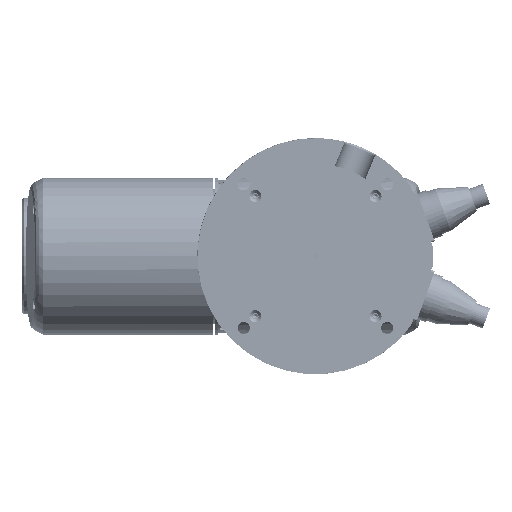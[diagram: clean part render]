
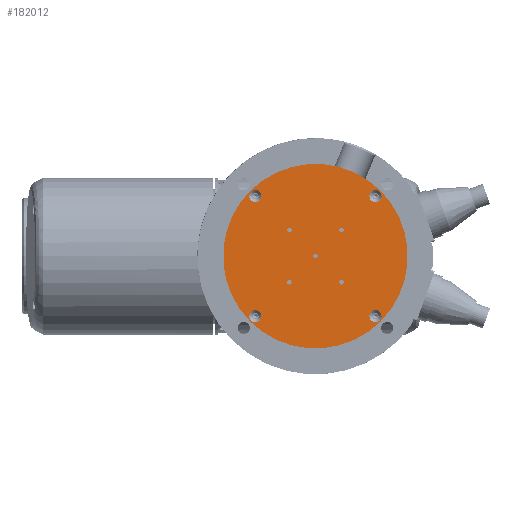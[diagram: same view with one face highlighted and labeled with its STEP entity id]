
A CAD part, front view. The second image highlights one B-rep face of the part: STEP entity #182012.
In plain terms, the highlighted planar face has unit normal (0, -1, 0) as drawn and (0, 0, 1) by its records, which use the part's own axes.
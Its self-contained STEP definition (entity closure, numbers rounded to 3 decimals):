
#6419 = CARTESIAN_POINT ( 'NONE',  ( 0., 0., 2. ) ) ;
#9828 = EDGE_LOOP ( 'NONE', ( #176124 ) ) ;
#13113 = FACE_BOUND ( 'NONE', #269947, .T. ) ;
#14483 = EDGE_LOOP ( 'NONE', ( #343188 ) ) ;
#21061 = EDGE_CURVE ( 'NONE', #58449, #58449, #156292, .T. ) ;
#36625 = AXIS2_PLACEMENT_3D ( 'NONE', #382705, #236908, #234915 ) ;
#37264 = FACE_BOUND ( 'NONE', #386543, .T. ) ;
#39053 = AXIS2_PLACEMENT_3D ( 'NONE', #327579, #54058, #175725 ) ;
#41525 = EDGE_LOOP ( 'NONE', ( #145265 ) ) ;
#46842 = VERTEX_POINT ( 'NONE', #322257 ) ;
#48282 = CARTESIAN_POINT ( 'NONE',  ( 1.25, -20., 2. ) ) ;
#48592 = EDGE_CURVE ( 'NONE', #209686, #209686, #208867, .T. ) ;
#54058 = DIRECTION ( 'NONE',  ( 0., 0., 1. ) ) ;
#56901 = EDGE_CURVE ( 'NONE', #271603, #271603, #122856, .T. ) ;
#58449 = VERTEX_POINT ( 'NONE', #301994 ) ;
#60446 = CARTESIAN_POINT ( 'NONE',  ( 0., -20., 2. ) ) ;
#64551 = CARTESIAN_POINT ( 'NONE',  ( 0., 46., 2. ) ) ;
#65164 = FACE_BOUND ( 'NONE', #73141, .T. ) ;
#65591 = AXIS2_PLACEMENT_3D ( 'NONE', #336012, #130246, #128281 ) ;
#67320 = DIRECTION ( 'NONE',  ( 0., 0., 1. ) ) ;
#69118 = FACE_BOUND ( 'NONE', #9828, .T. ) ;
#73141 = EDGE_LOOP ( 'NONE', ( #251423 ) ) ;
#76253 = DIRECTION ( 'NONE',  ( 0., 0., 1. ) ) ;
#80652 = EDGE_LOOP ( 'NONE', ( #241212 ) ) ;
#86160 = AXIS2_PLACEMENT_3D ( 'NONE', #64551, #160255, #94514 ) ;
#93297 = ORIENTED_EDGE ( 'NONE', *, *, #136691, .F. ) ;
#94514 = DIRECTION ( 'NONE',  ( 1., 0., 0. ) ) ;
#95451 = ORIENTED_EDGE ( 'NONE', *, *, #342982, .F. ) ;
#100139 = DIRECTION ( 'NONE',  ( 1., 0., 0. ) ) ;
#102745 = CIRCLE ( 'NONE', #39053, 1.25 ) ;
#102908 = CARTESIAN_POINT ( 'NONE',  ( 0., 0., 2. ) ) ;
#106790 = DIRECTION ( 'NONE',  ( 0., 0., 1. ) ) ;
#107391 = CARTESIAN_POINT ( 'NONE',  ( 0., -46., 2. ) ) ;
#112590 = EDGE_CURVE ( 'NONE', #46842, #46842, #310744, .T. ) ;
#119250 = CIRCLE ( 'NONE', #240381, 3.3 ) ;
#122856 = CIRCLE ( 'NONE', #65591, 1.25 ) ;
#128281 = DIRECTION ( 'NONE',  ( 1., 0., 0. ) ) ;
#130246 = DIRECTION ( 'NONE',  ( 0., 0., 1. ) ) ;
#130929 = FACE_BOUND ( 'NONE', #80652, .T. ) ;
#133764 = EDGE_CURVE ( 'NONE', #345791, #345791, #294868, .T. ) ;
#136691 = EDGE_CURVE ( 'NONE', #171907, #171907, #246491, .T. ) ;
#137233 = EDGE_CURVE ( 'NONE', #201854, #201854, #392589, .T. ) ;
#138105 = DIRECTION ( 'NONE',  ( 1., 0., 0. ) ) ;
#145265 = ORIENTED_EDGE ( 'NONE', *, *, #112590, .T. ) ;
#146573 = ORIENTED_EDGE ( 'NONE', *, *, #137233, .F. ) ;
#156292 = CIRCLE ( 'NONE', #86160, 3.3 ) ;
#160255 = DIRECTION ( 'NONE',  ( 0., 0., 1. ) ) ;
#167594 = CARTESIAN_POINT ( 'NONE',  ( -18.75, 0., 2. ) ) ;
#171907 = VERTEX_POINT ( 'NONE', #323714 ) ;
#173910 = CARTESIAN_POINT ( 'NONE',  ( 46., 0., 2. ) ) ;
#175725 = DIRECTION ( 'NONE',  ( 1., 0., 0. ) ) ;
#176124 = ORIENTED_EDGE ( 'NONE', *, *, #133764, .F. ) ;
#176240 = AXIS2_PLACEMENT_3D ( 'NONE', #340818, #67320, #189021 ) ;
#178595 = ORIENTED_EDGE ( 'NONE', *, *, #21061, .F. ) ;
#182012 = ADVANCED_FACE ( 'NONE', ( #65164, #37264, #284603, #314659, #130929, #13113, #69118, #188860, #280745, #372514 ), #190844, .T. ) ;
#188860 = FACE_BOUND ( 'NONE', #14483, .T. ) ;
#189021 = DIRECTION ( 'NONE',  ( 1., 0., 0. ) ) ;
#190033 = DIRECTION ( 'NONE',  ( 1., 0., 0. ) ) ;
#190784 = CARTESIAN_POINT ( 'NONE',  ( -20., 0., 2. ) ) ;
#190844 = PLANE ( 'NONE',  #379251 ) ;
#195544 = VERTEX_POINT ( 'NONE', #167594 ) ;
#198170 = CIRCLE ( 'NONE', #351213, 1.25 ) ;
#198944 = ORIENTED_EDGE ( 'NONE', *, *, #56901, .F. ) ;
#201854 = VERTEX_POINT ( 'NONE', #48282 ) ;
#208867 = CIRCLE ( 'NONE', #349132, 1.25 ) ;
#209686 = VERTEX_POINT ( 'NONE', #265642 ) ;
#211306 = CARTESIAN_POINT ( 'NONE',  ( 49.3, 0., 2. ) ) ;
#220076 = EDGE_CURVE ( 'NONE', #266798, #266798, #102745, .T. ) ;
#220505 = AXIS2_PLACEMENT_3D ( 'NONE', #60446, #367785, #190033 ) ;
#224755 = DIRECTION ( 'NONE',  ( 1., 0., 0. ) ) ;
#228646 = DIRECTION ( 'NONE',  ( 1., 0., 0. ) ) ;
#231082 = AXIS2_PLACEMENT_3D ( 'NONE', #107391, #386734, #287080 ) ;
#234915 = DIRECTION ( 'NONE',  ( 1., 0., 0. ) ) ;
#236908 = DIRECTION ( 'NONE',  ( 0., 0., 1. ) ) ;
#240381 = AXIS2_PLACEMENT_3D ( 'NONE', #173910, #76253, #138105 ) ;
#241212 = ORIENTED_EDGE ( 'NONE', *, *, #220076, .F. ) ;
#246491 = CIRCLE ( 'NONE', #176240, 3.3 ) ;
#251423 = ORIENTED_EDGE ( 'NONE', *, *, #48592, .F. ) ;
#251946 = DIRECTION ( 'NONE',  ( 0., 0., 1. ) ) ;
#256669 = DIRECTION ( 'NONE',  ( 0., 0., 1. ) ) ;
#265642 = CARTESIAN_POINT ( 'NONE',  ( 1.25, 0., 2. ) ) ;
#266798 = VERTEX_POINT ( 'NONE', #334127 ) ;
#267662 = CARTESIAN_POINT ( 'NONE',  ( 1.25, 20., 2. ) ) ;
#269947 = EDGE_LOOP ( 'NONE', ( #93297 ) ) ;
#271603 = VERTEX_POINT ( 'NONE', #267662 ) ;
#280745 = FACE_BOUND ( 'NONE', #375182, .T. ) ;
#282246 = EDGE_LOOP ( 'NONE', ( #95451 ) ) ;
#284603 = FACE_BOUND ( 'NONE', #282246, .T. ) ;
#287080 = DIRECTION ( 'NONE',  ( 1., 0., 0. ) ) ;
#294868 = CIRCLE ( 'NONE', #231082, 3.3 ) ;
#301994 = CARTESIAN_POINT ( 'NONE',  ( 3.3, 46., 2. ) ) ;
#310744 = CIRCLE ( 'NONE', #36625, 50. ) ;
#314659 = FACE_BOUND ( 'NONE', #380382, .T. ) ;
#322257 = CARTESIAN_POINT ( 'NONE',  ( 50., 0., 2. ) ) ;
#323714 = CARTESIAN_POINT ( 'NONE',  ( -42.7, 0., 2. ) ) ;
#327579 = CARTESIAN_POINT ( 'NONE',  ( 20., 0., 2. ) ) ;
#334127 = CARTESIAN_POINT ( 'NONE',  ( 21.25, 0., 2. ) ) ;
#336012 = CARTESIAN_POINT ( 'NONE',  ( 0., 20., 2. ) ) ;
#340818 = CARTESIAN_POINT ( 'NONE',  ( -46., 0., 2. ) ) ;
#342982 = EDGE_CURVE ( 'NONE', #195544, #195544, #198170, .T. ) ;
#343188 = ORIENTED_EDGE ( 'NONE', *, *, #359854, .F. ) ;
#345791 = VERTEX_POINT ( 'NONE', #369829 ) ;
#349132 = AXIS2_PLACEMENT_3D ( 'NONE', #6419, #251946, #100139 ) ;
#351213 = AXIS2_PLACEMENT_3D ( 'NONE', #190784, #106790, #228646 ) ;
#359854 = EDGE_CURVE ( 'NONE', #387036, #387036, #119250, .T. ) ;
#367785 = DIRECTION ( 'NONE',  ( 0., 0., 1. ) ) ;
#369829 = CARTESIAN_POINT ( 'NONE',  ( 3.3, -46., 2. ) ) ;
#372514 = FACE_OUTER_BOUND ( 'NONE', #41525, .T. ) ;
#375182 = EDGE_LOOP ( 'NONE', ( #178595 ) ) ;
#379251 = AXIS2_PLACEMENT_3D ( 'NONE', #102908, #256669, #224755 ) ;
#380382 = EDGE_LOOP ( 'NONE', ( #146573 ) ) ;
#382705 = CARTESIAN_POINT ( 'NONE',  ( 0., 0., 2. ) ) ;
#386543 = EDGE_LOOP ( 'NONE', ( #198944 ) ) ;
#386734 = DIRECTION ( 'NONE',  ( 0., 0., 1. ) ) ;
#387036 = VERTEX_POINT ( 'NONE', #211306 ) ;
#392589 = CIRCLE ( 'NONE', #220505, 1.25 ) ;
